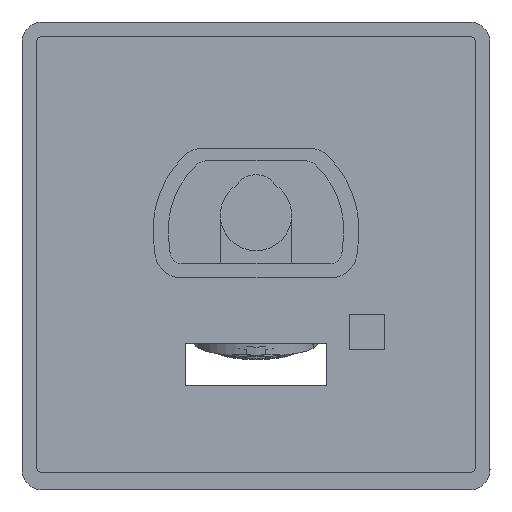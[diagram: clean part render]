
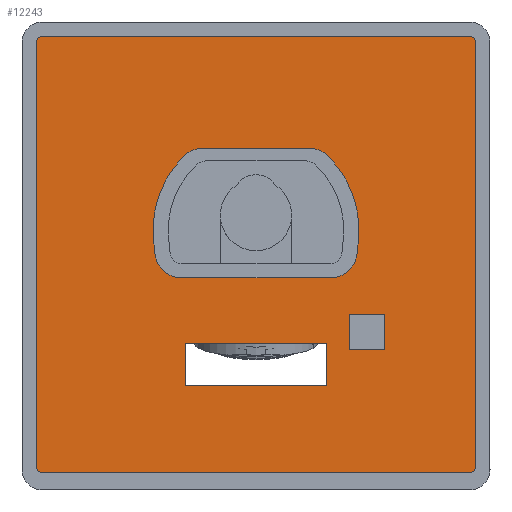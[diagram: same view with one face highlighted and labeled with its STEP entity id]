
A CAD part, left-side view. The second image highlights one B-rep face of the part: STEP entity #12243.
In plain terms, the highlighted planar face has unit normal (-1, 0, 0).
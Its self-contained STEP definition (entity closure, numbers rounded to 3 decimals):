
#738=FACE_BOUND('',#1907,.T.);
#739=FACE_BOUND('',#1908,.T.);
#740=FACE_BOUND('',#1909,.T.);
#763=CIRCLE('',#12945,1.);
#764=CIRCLE('',#12947,1.);
#765=CIRCLE('',#12948,1.);
#766=CIRCLE('',#12949,1.);
#767=CIRCLE('',#12950,4.6);
#768=CIRCLE('',#12951,17.6);
#769=CIRCLE('',#12952,4.6);
#770=CIRCLE('',#12953,4.6);
#771=CIRCLE('',#12954,17.6);
#772=CIRCLE('',#12955,4.6);
#1224=FACE_OUTER_BOUND('',#1906,.T.);
#1906=EDGE_LOOP('',(#7404,#7405,#7406,#7407,#7408,#7409,#7410,#7411));
#1907=EDGE_LOOP('',(#7412,#7413,#7414,#7415,#7416,#7417,#7418,#7419,#7420,
#7421));
#1908=EDGE_LOOP('',(#7422,#7423,#7424,#7425));
#1909=EDGE_LOOP('',(#7426,#7427,#7428,#7429));
#2603=LINE('',#18084,#3471);
#2613=LINE('',#18124,#3481);
#2614=LINE('',#18128,#3482);
#2615=LINE('',#18131,#3483);
#2616=LINE('',#18138,#3484);
#2617=LINE('',#18142,#3485);
#2618=LINE('',#18146,#3486);
#2619=LINE('',#18151,#3487);
#2620=LINE('',#18154,#3488);
#2621=LINE('',#18156,#3489);
#2622=LINE('',#18158,#3490);
#2623=LINE('',#18159,#3491);
#2624=LINE('',#18162,#3492);
#2625=LINE('',#18164,#3493);
#2626=LINE('',#18166,#3494);
#2627=LINE('',#18167,#3495);
#3471=VECTOR('',#14364,73.);
#3481=VECTOR('',#14400,72.5);
#3482=VECTOR('',#14403,73.);
#3483=VECTOR('',#14406,72.5);
#3484=VECTOR('',#14411,2.398);
#3485=VECTOR('',#14414,25.411);
#3486=VECTOR('',#14417,2.398);
#3487=VECTOR('',#14422,18.064);
#3488=VECTOR('',#14423,7.2);
#3489=VECTOR('',#14424,24.2);
#3490=VECTOR('',#14425,7.2);
#3491=VECTOR('',#14426,24.2);
#3492=VECTOR('',#14427,6.);
#3493=VECTOR('',#14428,6.);
#3494=VECTOR('',#14429,6.);
#3495=VECTOR('',#14430,6.);
#4339=VERTEX_POINT('',#18081);
#4340=VERTEX_POINT('',#18083);
#4355=VERTEX_POINT('',#18117);
#4356=VERTEX_POINT('',#18121);
#4357=VERTEX_POINT('',#18123);
#4358=VERTEX_POINT('',#18125);
#4359=VERTEX_POINT('',#18127);
#4360=VERTEX_POINT('',#18129);
#4361=VERTEX_POINT('',#18132);
#4362=VERTEX_POINT('',#18133);
#4363=VERTEX_POINT('',#18135);
#4364=VERTEX_POINT('',#18137);
#4365=VERTEX_POINT('',#18139);
#4366=VERTEX_POINT('',#18141);
#4367=VERTEX_POINT('',#18143);
#4368=VERTEX_POINT('',#18145);
#4369=VERTEX_POINT('',#18147);
#4370=VERTEX_POINT('',#18149);
#4371=VERTEX_POINT('',#18152);
#4372=VERTEX_POINT('',#18153);
#4373=VERTEX_POINT('',#18155);
#4374=VERTEX_POINT('',#18157);
#4375=VERTEX_POINT('',#18160);
#4376=VERTEX_POINT('',#18161);
#4377=VERTEX_POINT('',#18163);
#4378=VERTEX_POINT('',#18165);
#5532=EDGE_CURVE('',#4340,#4339,#2603,.T.);
#5550=EDGE_CURVE('',#4339,#4355,#763,.T.);
#5551=EDGE_CURVE('',#4356,#4340,#764,.T.);
#5552=EDGE_CURVE('',#4357,#4355,#2613,.T.);
#5553=EDGE_CURVE('',#4357,#4358,#765,.T.);
#5554=EDGE_CURVE('',#4358,#4359,#2614,.T.);
#5555=EDGE_CURVE('',#4359,#4360,#766,.T.);
#5556=EDGE_CURVE('',#4356,#4360,#2615,.T.);
#5557=EDGE_CURVE('',#4361,#4362,#767,.T.);
#5558=EDGE_CURVE('',#4362,#4363,#768,.T.);
#5559=EDGE_CURVE('',#4363,#4364,#2616,.T.);
#5560=EDGE_CURVE('',#4364,#4365,#769,.T.);
#5561=EDGE_CURVE('',#4365,#4366,#2617,.T.);
#5562=EDGE_CURVE('',#4366,#4367,#770,.T.);
#5563=EDGE_CURVE('',#4367,#4368,#2618,.T.);
#5564=EDGE_CURVE('',#4368,#4369,#771,.T.);
#5565=EDGE_CURVE('',#4369,#4370,#772,.T.);
#5566=EDGE_CURVE('',#4370,#4361,#2619,.T.);
#5567=EDGE_CURVE('',#4371,#4372,#2620,.T.);
#5568=EDGE_CURVE('',#4373,#4371,#2621,.T.);
#5569=EDGE_CURVE('',#4374,#4373,#2622,.T.);
#5570=EDGE_CURVE('',#4372,#4374,#2623,.T.);
#5571=EDGE_CURVE('',#4375,#4376,#2624,.T.);
#5572=EDGE_CURVE('',#4377,#4375,#2625,.T.);
#5573=EDGE_CURVE('',#4378,#4377,#2626,.T.);
#5574=EDGE_CURVE('',#4376,#4378,#2627,.T.);
#7404=ORIENTED_EDGE('',*,*,#5551,.T.);
#7405=ORIENTED_EDGE('',*,*,#5532,.T.);
#7406=ORIENTED_EDGE('',*,*,#5550,.T.);
#7407=ORIENTED_EDGE('',*,*,#5552,.F.);
#7408=ORIENTED_EDGE('',*,*,#5553,.T.);
#7409=ORIENTED_EDGE('',*,*,#5554,.T.);
#7410=ORIENTED_EDGE('',*,*,#5555,.T.);
#7411=ORIENTED_EDGE('',*,*,#5556,.F.);
#7412=ORIENTED_EDGE('',*,*,#5557,.T.);
#7413=ORIENTED_EDGE('',*,*,#5558,.T.);
#7414=ORIENTED_EDGE('',*,*,#5559,.T.);
#7415=ORIENTED_EDGE('',*,*,#5560,.T.);
#7416=ORIENTED_EDGE('',*,*,#5561,.T.);
#7417=ORIENTED_EDGE('',*,*,#5562,.T.);
#7418=ORIENTED_EDGE('',*,*,#5563,.T.);
#7419=ORIENTED_EDGE('',*,*,#5564,.T.);
#7420=ORIENTED_EDGE('',*,*,#5565,.T.);
#7421=ORIENTED_EDGE('',*,*,#5566,.T.);
#7422=ORIENTED_EDGE('',*,*,#5567,.F.);
#7423=ORIENTED_EDGE('',*,*,#5568,.F.);
#7424=ORIENTED_EDGE('',*,*,#5569,.F.);
#7425=ORIENTED_EDGE('',*,*,#5570,.F.);
#7426=ORIENTED_EDGE('',*,*,#5571,.F.);
#7427=ORIENTED_EDGE('',*,*,#5572,.F.);
#7428=ORIENTED_EDGE('',*,*,#5573,.F.);
#7429=ORIENTED_EDGE('',*,*,#5574,.F.);
#11082=PLANE('',#12946);
#12243=ADVANCED_FACE('',(#1224,#738,#739,#740),#11082,.T.);
#12945=AXIS2_PLACEMENT_3D('',#18119,#14394,#14395);
#12946=AXIS2_PLACEMENT_3D('',#18120,#14396,#14397);
#12947=AXIS2_PLACEMENT_3D('',#18122,#14398,#14399);
#12948=AXIS2_PLACEMENT_3D('',#18126,#14401,#14402);
#12949=AXIS2_PLACEMENT_3D('',#18130,#14404,#14405);
#12950=AXIS2_PLACEMENT_3D('',#18134,#14407,#14408);
#12951=AXIS2_PLACEMENT_3D('',#18136,#14409,#14410);
#12952=AXIS2_PLACEMENT_3D('',#18140,#14412,#14413);
#12953=AXIS2_PLACEMENT_3D('',#18144,#14415,#14416);
#12954=AXIS2_PLACEMENT_3D('',#18148,#14418,#14419);
#12955=AXIS2_PLACEMENT_3D('',#18150,#14420,#14421);
#14364=DIRECTION('',(0.,1.,0.));
#14394=DIRECTION('center_axis',(-1.,0.,0.));
#14395=DIRECTION('ref_axis',(0.,0.,1.));
#14396=DIRECTION('center_axis',(-1.,0.,0.));
#14397=DIRECTION('ref_axis',(0.,0.,1.));
#14398=DIRECTION('center_axis',(-1.,0.,0.));
#14399=DIRECTION('ref_axis',(0.,-1.,0.));
#14400=DIRECTION('',(0.,0.,1.));
#14401=DIRECTION('center_axis',(-1.,0.,0.));
#14402=DIRECTION('ref_axis',(0.,1.,0.));
#14403=DIRECTION('',(0.,-1.,0.));
#14404=DIRECTION('center_axis',(-1.,0.,0.));
#14405=DIRECTION('ref_axis',(0.,0.,-1.));
#14406=DIRECTION('',(0.,0.,-1.));
#14407=DIRECTION('center_axis',(1.,0.,0.));
#14408=DIRECTION('ref_axis',(0.,0.,
1.));
#14409=DIRECTION('center_axis',(1.,0.,0.));
#14410=DIRECTION('ref_axis',(0.,-0.695,0.719));
#14411=DIRECTION('',(0.,0.097,-0.995));
#14412=DIRECTION('center_axis',(1.,0.,0.));
#14413=DIRECTION('ref_axis',(0.,-0.995,-0.097));
#14414=DIRECTION('',(0.,1.,0.));
#14415=DIRECTION('center_axis',(1.,0.,0.));
#14416=DIRECTION('ref_axis',(0.,0.,-1.));
#14417=DIRECTION('',(0.,0.097,0.995));
#14418=DIRECTION('center_axis',(1.,0.,0.));
#14419=DIRECTION('ref_axis',(0.,0.995,-0.097));
#14420=DIRECTION('center_axis',(1.,0.,0.));
#14421=DIRECTION('ref_axis',(0.,0.695,0.719));
#14422=DIRECTION('',(0.,-1.,0.));
#14423=DIRECTION('',(0.,0.,1.));
#14424=DIRECTION('',(0.,-1.,0.));
#14425=DIRECTION('',(0.,0.,-1.));
#14426=DIRECTION('',(0.,1.,0.));
#14427=DIRECTION('',(0.,0.,1.));
#14428=DIRECTION('',(0.,-1.,0.));
#14429=DIRECTION('',(0.,0.,-1.));
#14430=DIRECTION('',(0.,1.,0.));
#18081=CARTESIAN_POINT('',(6.5,36.5,36.5));
#18083=CARTESIAN_POINT('',(6.5,-36.5,36.5));
#18084=CARTESIAN_POINT('',(6.5,-36.5,36.5));
#18117=CARTESIAN_POINT('',(6.5,37.5,35.5));
#18119=CARTESIAN_POINT('Origin',(6.5,36.5,35.5));
#18120=CARTESIAN_POINT('Origin',(6.5,-37.5,-38.));
#18121=CARTESIAN_POINT('',(6.5,-37.5,35.5));
#18122=CARTESIAN_POINT('Origin',(6.5,-36.5,35.5));
#18123=CARTESIAN_POINT('',(6.5,37.5,-37.));
#18124=CARTESIAN_POINT('',(6.5,37.5,-37.));
#18125=CARTESIAN_POINT('',(6.5,36.5,-38.));
#18126=CARTESIAN_POINT('Origin',(6.5,36.5,-37.));
#18127=CARTESIAN_POINT('',(6.5,-36.5,-38.));
#18128=CARTESIAN_POINT('',(6.5,36.5,-38.));
#18129=CARTESIAN_POINT('',(6.5,-37.5,-37.));
#18130=CARTESIAN_POINT('Origin',(6.5,-36.5,-37.));
#18131=CARTESIAN_POINT('',(6.5,-37.5,35.5));
#18132=CARTESIAN_POINT('',(6.5,-9.032,17.45));
#18133=CARTESIAN_POINT('',(6.5,-12.228,16.158));
#18134=CARTESIAN_POINT('Origin',(6.5,-9.032,12.85));
#18135=CARTESIAN_POINT('',(6.5,-17.517,1.789));
#18136=CARTESIAN_POINT('Origin',(6.5,0.,3.5));
#18137=CARTESIAN_POINT('',(6.5,-17.284,-0.597));
#18138=CARTESIAN_POINT('',(6.5,-17.517,1.789));
#18139=CARTESIAN_POINT('',(6.5,-12.705,-4.75));
#18140=CARTESIAN_POINT('Origin',(6.5,-12.705,-0.15));
#18141=CARTESIAN_POINT('',(6.5,12.705,-4.75));
#18142=CARTESIAN_POINT('',(6.5,-12.705,-4.75));
#18143=CARTESIAN_POINT('',(6.5,17.284,-0.597));
#18144=CARTESIAN_POINT('Origin',(6.5,12.705,-0.15));
#18145=CARTESIAN_POINT('',(6.5,17.517,1.789));
#18146=CARTESIAN_POINT('',(6.5,17.284,-0.597));
#18147=CARTESIAN_POINT('',(6.5,12.228,16.158));
#18148=CARTESIAN_POINT('Origin',(6.5,0.,3.5));
#18149=CARTESIAN_POINT('',(6.5,9.032,17.45));
#18150=CARTESIAN_POINT('Origin',(6.5,9.032,12.85));
#18151=CARTESIAN_POINT('',(6.5,9.032,17.45));
#18152=CARTESIAN_POINT('',(6.5,-12.1,-23.1));
#18153=CARTESIAN_POINT('',(6.5,-12.1,-15.9));
#18154=CARTESIAN_POINT('',(6.5,-12.1,-23.1));
#18155=CARTESIAN_POINT('',(6.5,12.1,-23.1));
#18156=CARTESIAN_POINT('',(6.5,12.1,-23.1));
#18157=CARTESIAN_POINT('',(6.5,12.1,-15.9));
#18158=CARTESIAN_POINT('',(6.5,12.1,-15.9));
#18159=CARTESIAN_POINT('',(6.5,-12.1,-15.9));
#18160=CARTESIAN_POINT('',(6.5,-22.,-17.));
#18161=CARTESIAN_POINT('',(6.5,-22.,-11.));
#18162=CARTESIAN_POINT('',(6.5,-22.,-17.));
#18163=CARTESIAN_POINT('',(6.5,-16.,-17.));
#18164=CARTESIAN_POINT('',(6.5,-16.,-17.));
#18165=CARTESIAN_POINT('',(6.5,-16.,-11.));
#18166=CARTESIAN_POINT('',(6.5,-16.,-11.));
#18167=CARTESIAN_POINT('',(6.5,-22.,-11.));
